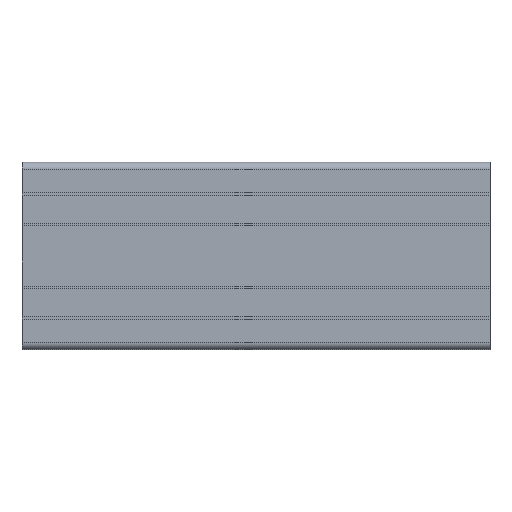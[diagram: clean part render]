
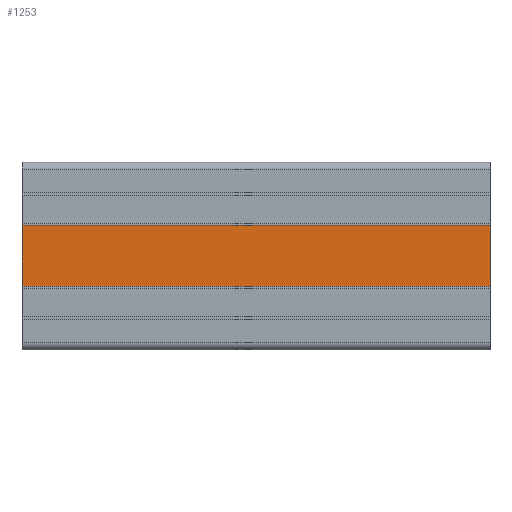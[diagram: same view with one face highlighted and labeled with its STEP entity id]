
A CAD part, top view. The second image highlights one B-rep face of the part: STEP entity #1253.
In plain terms, the highlighted planar face has unit normal (0, 0, 1).
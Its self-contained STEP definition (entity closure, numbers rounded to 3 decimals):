
#959=VERTEX_POINT('',#2626);
#1017=VERTEX_POINT('',#2689);
#1137=VERTEX_POINT('',#2818);
#1253=ADVANCED_FACE('',(#2954),#2955,.T.);
#1401=VERTEX_POINT('',#3118);
#1607=EDGE_CURVE('',#1137,#1401,#3336,.T.);
#1615=EDGE_CURVE('',#959,#1017,#3346,.T.);
#2165=EDGE_CURVE('',#959,#1401,#3943,.T.);
#2265=EDGE_CURVE('',#1017,#1137,#4049,.T.);
#2626=CARTESIAN_POINT('',(0.0,6.5,10.0));
#2689=CARTESIAN_POINT('',(0.0,-6.5,10.0));
#2818=CARTESIAN_POINT('',(100.0,-6.5,10.0));
#2954=FACE_OUTER_BOUND('',#4937,.T.);
#2955=PLANE('',#4938);
#3118=CARTESIAN_POINT('',(100.0,6.5,10.0));
#3336=LINE('',#5493,#5494);
#3346=LINE('',#5505,#5506);
#3943=LINE('',#6374,#6375);
#4049=LINE('',#6527,#6528);
#4937=EDGE_LOOP('',(#7560,#7561,#7562,#7563));
#4938=AXIS2_PLACEMENT_3D('',#7564,#7565,#7566);
#5493=CARTESIAN_POINT('',(100.0,6.5,10.0));
#5494=VECTOR('',#7882,1.0);
#5505=CARTESIAN_POINT('',(0.0,6.5,10.0));
#5506=VECTOR('',#7899,1.0);
#6374=CARTESIAN_POINT('',(0.0,6.5,10.0));
#6375=VECTOR('',#8431,1.0);
#6527=CARTESIAN_POINT('',(0.0,-6.5,10.0));
#6528=VECTOR('',#8510,1.0);
#7560=ORIENTED_EDGE('',*,*,#1607,.T.);
#7561=ORIENTED_EDGE('',*,*,#2165,.F.);
#7562=ORIENTED_EDGE('',*,*,#1615,.T.);
#7563=ORIENTED_EDGE('',*,*,#2265,.T.);
#7564=CARTESIAN_POINT('',(0.0,-6.5,10.0));
#7565=DIRECTION('',(0.0,0.0,1.0));
#7566=DIRECTION('',(0.0,-1.0,0.0));
#7882=DIRECTION('',(0.0,1.0,0.0));
#7899=DIRECTION('',(0.0,-1.0,0.0));
#8431=DIRECTION('',(1.0,0.0,0.0));
#8510=DIRECTION('',(1.0,0.0,0.0));
